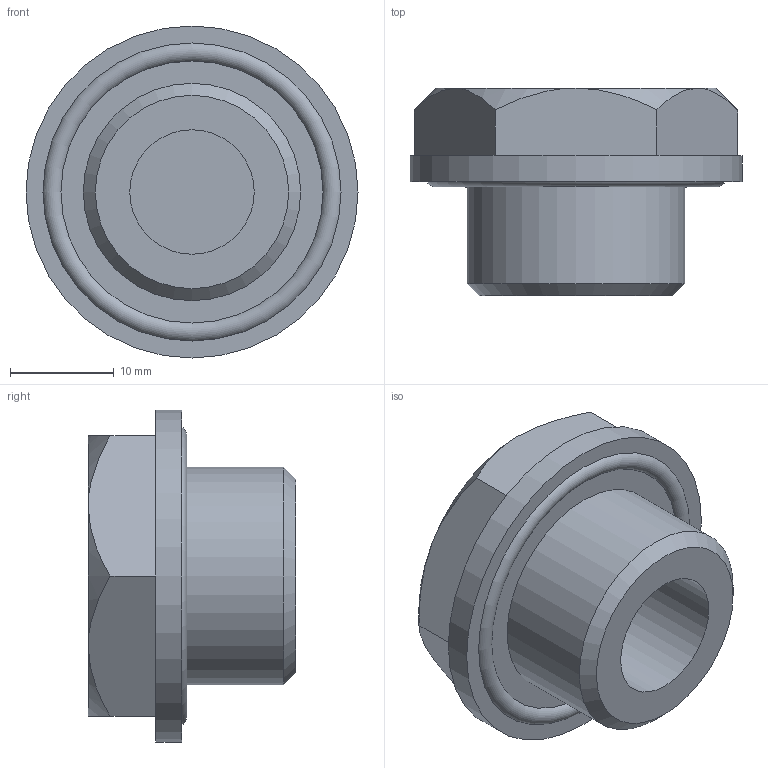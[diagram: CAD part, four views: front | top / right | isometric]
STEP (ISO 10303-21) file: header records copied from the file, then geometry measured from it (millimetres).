
FILE_DESCRIPTION( ( 'STEP AP203' ), '1' );
FILE_NAME( 'C:/Temp/Ganter_Step_05_03_2020/data/3_5/gn740_2/Threaded plug GN 740.2-G1_2.stp', '2020-03-12T13:43:55', ( 'License CC BY-ND 4.0' ), ( 'CADENAS' ), ' ', 'PARTsolutions', ' ' );
FILE_SCHEMA( ( 'CONFIG_CONTROL_DESIGN' ) );
Length unit declared in the file: millimetre
Products named in the file (1): _Threaded plug GN 740.2-G1/2
Bounding box: 32 x 20 x 32 mm (x, y, z)
Volume: 8066.2 mm3; surface area: 3731.2 mm2
Topology: 1 solids, 1 shells, 52 faces, 124 edges, 81 vertices
Faces by surface type: plane 40, cone 7, cylinder 4, torus 1
Full cylindrical faces by diameter (mm): 12 x1, 20.5 x1, 20.955 x1, 32 x1
Entity records: 1541 total; most frequent: CARTESIAN_POINT 332, ORIENTED_EDGE 232, DIRECTION 227, EDGE_CURVE 116, LINE 87, VECTOR 87, VERTEX_POINT 79, AXIS2_PLACEMENT_3D 70
